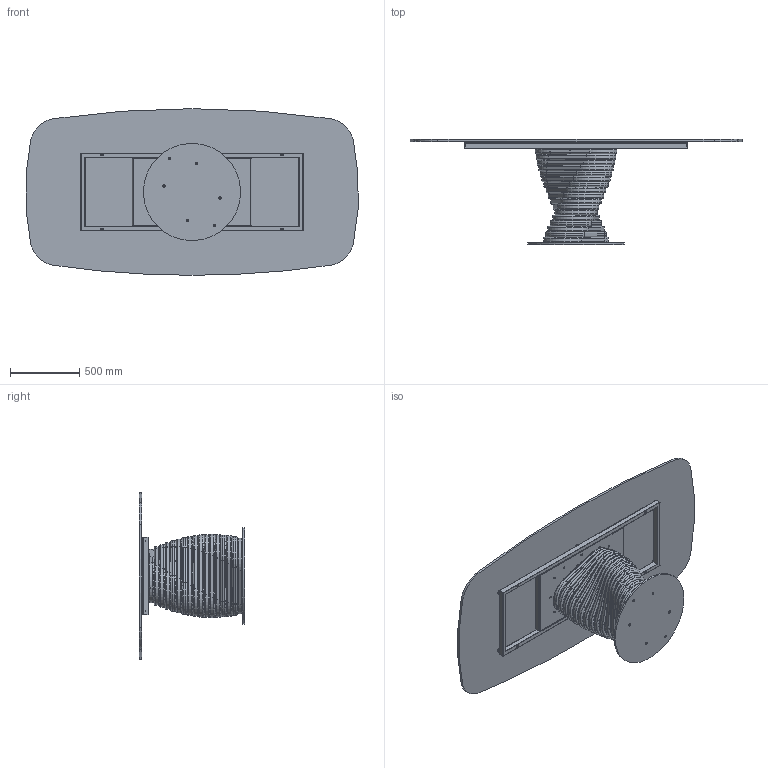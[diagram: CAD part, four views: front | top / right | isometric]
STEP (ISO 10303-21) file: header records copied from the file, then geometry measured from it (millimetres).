
FILE_DESCRIPTION (( 'STEP AP203' ), '1' );
FILE_NAME ('RO43G.STEP', '2024-08-07T13:39:31', ( '' ), ( '' ), 'SwSTEP 2.0', 'SolidWorks 2022', '' );
FILE_SCHEMA (( 'CONFIG_CONTROL_DESIGN' ));
Length unit declared in the file: millimetre
Products named in the file (15): M8xXXmm_hex_M8X20mm; COLLO TELAIO UNIVERSALE TTAV01 CON FERRAMENTA_MTG TOP CRISTALLO VERNICIATO-CERAMICA; C4XCRXX-00-Piani Sagomati in Cristallo_2400 x 1200; ROBX00000INF-00-Anello rotolo INFERIORE_Default<A macchina>; RO43G; 434070-00-PIEDINO TPV GOMMA NERO D. 30x8max18_filo estetico; TTAV01_01-05-TELAIO UNIVERSALE X TAVOLI 180 240cm; ROBX00000-00-ROTOLO BASE 17 ANELLI; TTAV01_02-05-VASSOIO IRRIGIDIMENTO TELAIO UNIVERSALE; ROBX00000SUP-00-Anello rotolo SUPERIORE_Default<A macchina>; ROBX00000MED-00-Anello rotolo MEDIO_Default<A macchina>; M8xXXmm_M8x20mm; ROB200000-00-PIASTRA BASE_Ø70cm; TTAV01-05-TELAIO UNIVERSALE X TAVOLI 180 240cm; rondella M8_8X24
Assembly tree (44 placements, depth 4):
  RO43G
    ROB200000-00-PIASTRA BASE_Ø70cm
    ROBX00000-00-ROTOLO BASE 17 ANELLI
      ROBX00000INF-00-Anello rotolo INFERIORE_Default<A macchina>
      ROBX00000MED-00-Anello rotolo MEDIO_Default<A macchina>  x15
      ROBX00000SUP-00-Anello rotolo SUPERIORE_Default<A macchina>
    M8xXXmm_hex_M8X20mm  x6
    COLLO TELAIO UNIVERSALE TTAV01 CON FERRAMENTA_MTG TOP CRISTALLO VERNICIATO-CERAMICA
      TTAV01-05-TELAIO UNIVERSALE X TAVOLI 180 240cm
        TTAV01_02-05-VASSOIO IRRIGIDIMENTO TELAIO UNIVERSALE
        TTAV01_01-05-TELAIO UNIVERSALE X TAVOLI 180 240cm
      434070-00-PIEDINO TPV GOMMA NERO D. 30x8max18_filo estetico  x6
    rondella M8_8X24  x4
    M8xXXmm_M8x20mm  x4
    C4XCRXX-00-Piani Sagomati in Cristallo_2400 x 1200
Bounding box: 2391.62 x 757 x 1200 mm (x, y, z)
Volume: 53010631.9 mm3; surface area: 13259149 mm2
Topology: 98 solids, 98 shells, 1497 faces, 3551 edges, 2224 vertices
Faces by surface type: plane 614, cylinder 555, torus 220, cone 100, sphere 8
Entity records: 20757 total; most frequent: CARTESIAN_POINT 4705, DIRECTION 2978, ORIENTED_EDGE 2742, EDGE_CURVE 1371, AXIS2_PLACEMENT_3D 1118, VERTEX_POINT 869, LINE 742, VECTOR 742
